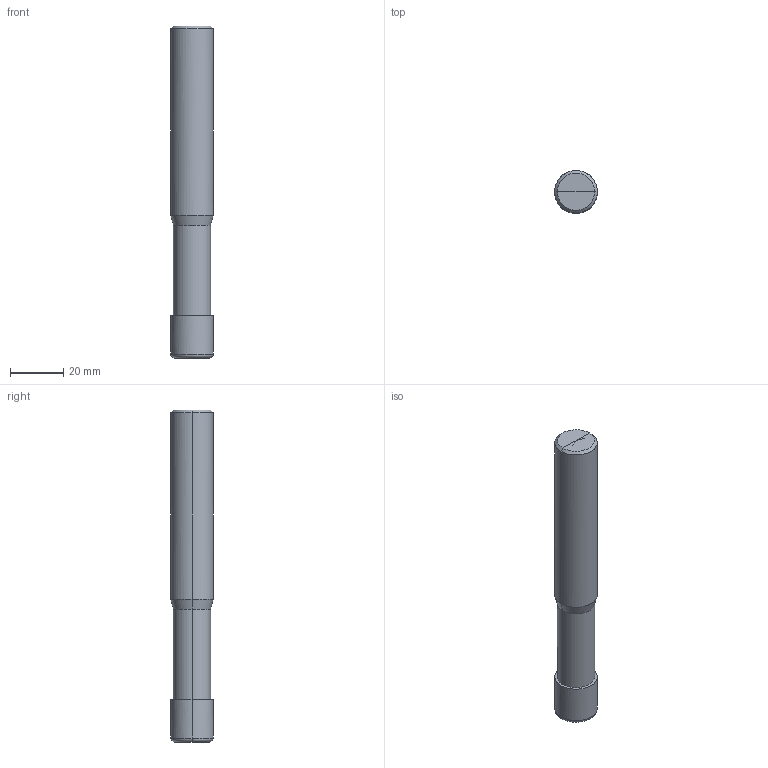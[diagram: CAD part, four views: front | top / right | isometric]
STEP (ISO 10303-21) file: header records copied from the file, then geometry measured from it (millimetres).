
FILE_DESCRIPTION(/* description */ (''),/* implementation_level */ '2;1');
FILE_NAME(/*name*/ '2001-16-1.5R',/*time_stamp*/'2021-3-22T14:53:13',/*author*/ ('ISBE GmbH'),/*organization*/ ('ISBE GmbH'),/*preprocessor_version*/ 'STEP IO v1.0',/*originating_system*/ '',/*authorisation*/ '');
FILE_SCHEMA (('AUTOMOTIVE_DESIGN'));
Length unit declared in the file: millimetre
Products named in the file (1): Document
Bounding box: 16 x 15.99 x 125 mm (x, y, z)
Surface area: 6766.6 mm2 (no closed solid volume)
Topology: 0 solids, 20 shells, 20 faces, 82 edges, 76 vertices
Faces by surface type: bspline 20
Entity records: 863 total; most frequent: CARTESIAN_POINT 508, VERTEX_POINT 72, EDGE_CURVE 72, ORIENTED_EDGE 72, EDGE_LOOP 20, FACE_OUTER_BOUND 20, ADVANCED_FACE 20, DIRECTION 16
